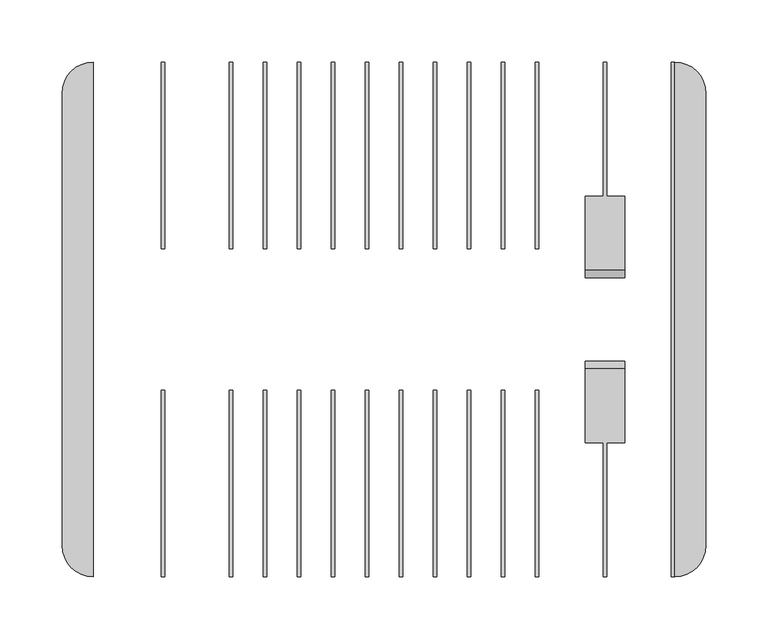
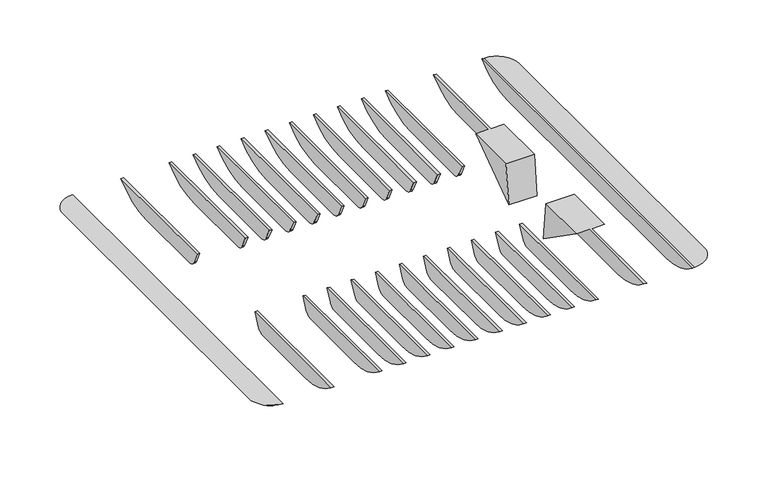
"""IFC4 building model written with IfcOpenShell, lengths in millimetres: light fixture geometry, Zumtobel CRAFT II Plus : CR2PL M17k-840 PC WB LDO WH."""

from ifc_helpers import new_model, si_unit, point, frame, frame_2d, origin, place, context, project, spatial, polyline, circle_curve, ellipse_curve, trimmed, segment, composite_curve, outline, extrude, source, transform, mapped, element, save
from ifc_brep_helpers import plane_surface, cylinder_surface, revolved_surface, advanced_brep


def light_fixture_60486518(model_context):
    return source(origin(), model_context, "Body", "SolidModel", [
        advanced_brep(
        [(593.2941225, -33.6427451, -70.858039), (593.2941225, -39.375, -25.0), (593.2941225, -99.1348121, -25.0), (561.2941225, -33.6427451, -70.858039), (561.2941225, -99.1348121, -25.0), (561.2941225, -39.375, -25.0), (575.7941225, -99.1348121, -25.0), (575.7941225, -207.0, -25.0), (578.7941225, -207.0, -25.0), (578.7941225, -99.1348121, -25.0), (578.7941225, -72.0, -44.0), (575.7941225, -72.0, -44.0), (578.7941225, -157.0, -44.0), (575.7941225, -157.0, -44.0)],
        [
            (0, 1),
            (1, 2),
            (2, 0),
            (3, 4),
            (4, 5),
            (5, 3),
            (0, 3),
            (5, 1),
            (4, 6),
            (6, 7),
            (7, 8),
            (8, 9),
            (9, 2),
            (9, 10),
            (10, 11),
            (11, 6),
            (8, 12, circle_curve(frame((578.7941225, -157.0, 31.2894737), z_axis=(1.0, 0.0, 0.0), x_axis=(0.0, 1.0, 0.0)), 75.2894737)),
            (12, 10),
            (13, 7, circle_curve(frame((575.7941225, -157.0, 31.2894737), z_axis=(-1.0, 0.0, 0.0), x_axis=(0.0, 1.0, 0.0)), 75.2894737)),
            (11, 13),
            (13, 12),
        ],
        [
            plane_surface(frame((593.2941225, -72.0, -44.0), z_axis=(1.0000000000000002, 0.0, 0.0), x_axis=(0.0, 0.8191520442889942, -0.5735764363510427))),
            plane_surface(frame((561.2941225, -72.0, -44.0), z_axis=(-1.0000000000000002, 0.0, 0.0), x_axis=(0.0, -0.8191520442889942, 0.5735764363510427))),
            plane_surface(frame((561.2941225, -39.375, -25.0), z_axis=(0.0, 0.9922778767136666, 0.1240347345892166), x_axis=(1.0, 0.0, 0.0))),
            plane_surface(frame((561.2941225, -99.1348121, -25.0), z_axis=(0.0, 0.0, 1.0), x_axis=(1.0, 0.0, 0.0))),
            plane_surface(frame((561.2941225, -33.6427451, -70.858039), z_axis=(0.0, -0.5735764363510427, -0.8191520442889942), x_axis=(1.0, 0.0, 0.0))),
            plane_surface(frame((578.7941225, -207.0, -25.0), z_axis=(1.0, 0.0, 0.0), x_axis=(0.0, -1.0, 0.0))),
            plane_surface(frame((575.7941225, -207.0, -25.0), z_axis=(-1.0, 0.0, 0.0), x_axis=(0.0, 1.0, 0.0))),
            cylinder_surface(frame((575.7941225, -157.0, 31.2894737), z_axis=(1.0, 0.0, 0.0), x_axis=(0.0, 1.0, 0.0)), 75.2894737),
            plane_surface(frame((578.7941225, -157.0, -44.0), z_axis=(0.0, 0.0, -1.0), x_axis=(-1.0, 0.0, 0.0))),
        ],
        [
            (0, [[1, 2, 3]]),
            (1, [[4, 5, 6]]),
            (2, [[-1, 7, -6, 8]]),
            (3, [[-2, -8, -5, 9, 10, 11, 12, 13]]),
            (4, [[-3, -13, 14, 15, 16, -9, -4, -7]]),
            (5, [[17, 18, -14, -12]]),
            (6, [[19, -10, -16, 20]]),
            (7, [[-17, -11, -19, 21]]),
            (8, [[-21, -20, -15, -18]]),
        ],
    ),
        advanced_brep(
        [(593.2941225, 33.6427451, -70.858039), (593.2941225, 99.1348121, -25.0), (593.2941225, 39.375, -25.0), (561.2941225, 33.6427451, -70.858039), (561.2941225, 39.375, -25.0), (561.2941225, 99.1348121, -25.0), (575.7941225, 99.1348121, -25.0), (575.7941225, 72.0, -44.0), (578.7941225, 72.0, -44.0), (578.7941225, 99.1348121, -25.0), (578.7941225, 207.0, -25.0), (575.7941225, 207.0, -25.0), (578.7941225, 157.0, -44.0), (575.7941225, 157.0, -44.0)],
        [
            (0, 1),
            (1, 2),
            (2, 0),
            (3, 4),
            (4, 5),
            (5, 3),
            (0, 3),
            (5, 6),
            (6, 7),
            (7, 8),
            (8, 9),
            (9, 1),
            (9, 10),
            (10, 11),
            (11, 6),
            (4, 2),
            (12, 10, circle_curve(frame((578.7941225, 157.0, 31.2894737), z_axis=(1.0, 0.0, 0.0), x_axis=(0.0, -1.0, 0.0)), 75.2894737)),
            (8, 12),
            (11, 13, circle_curve(frame((575.7941225, 157.0, 31.2894737), z_axis=(-1.0, 0.0, 0.0), x_axis=(0.0, -1.0, 0.0)), 75.2894737)),
            (13, 7),
            (13, 12),
        ],
        [
            plane_surface(frame((593.2941225, -72.0, -44.0), z_axis=(1.0000000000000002, 0.0, 0.0), x_axis=(0.0, 0.8191520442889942, -0.5735764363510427))),
            plane_surface(frame((561.2941225, -72.0, -44.0), z_axis=(-1.0000000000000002, 0.0, 0.0), x_axis=(0.0, -0.8191520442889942, 0.5735764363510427))),
            plane_surface(frame((561.2941225, 99.1348121, -25.0), z_axis=(0.0, 0.5735764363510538, -0.8191520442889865), x_axis=(1.0, 0.0, 0.0))),
            plane_surface(frame((561.2941225, 39.375, -25.0), z_axis=(0.0, 0.0, 1.0), x_axis=(1.0, 0.0, 0.0))),
            plane_surface(frame((561.2941225, 33.6427451, -70.858039), z_axis=(0.0, -0.9922778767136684, 0.12403473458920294), x_axis=(1.0, 0.0, 0.0))),
            plane_surface(frame((578.7941225, -207.0, -25.0), z_axis=(1.0, 0.0, 0.0), x_axis=(0.0, -1.0, 0.0))),
            plane_surface(frame((575.7941225, -207.0, -25.0), z_axis=(-1.0, 0.0, 0.0), x_axis=(0.0, 1.0, 0.0))),
            plane_surface(frame((578.7941225, 57.0, -44.0), z_axis=(0.0, 0.0, -1.0), x_axis=(-1.0, 0.0, 0.0))),
            cylinder_surface(frame((577.2941225, 157.0, 31.2894737), z_axis=(1.0, 0.0, 0.0), x_axis=(0.0, -1.0, 0.0)), 75.2894737),
        ],
        [
            (0, [[1, 2, 3]]),
            (1, [[4, 5, 6]]),
            (2, [[-1, 7, -6, 8, 9, 10, 11, 12]]),
            (3, [[-2, -12, 13, 14, 15, -8, -5, 16]]),
            (4, [[-3, -16, -4, -7]]),
            (5, [[17, -13, -11, 18]]),
            (6, [[19, 20, -9, -15]]),
            (7, [[21, -18, -10, -20]]),
            (8, [[-17, -21, -19, -14]]),
        ],
    ),
        advanced_brep(
        [(140.5000048, 182.0, -25.0), (140.5000048, -182.0, -25.0), (165.5000048, -207.0, -25.0), (165.5000048, 207.0, -25.0), (165.5000048, 182.0, -39.7281639), (165.5000048, -182.0, -39.7281639)],
        [
            (0, 1),
            (1, 2, circle_curve(frame((165.5000048, -182.0, -25.0), z_axis=(0.0, 0.0, 1.0), x_axis=(-1.0000000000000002, 0.0, 0.0)), 25.0)),
            (2, 3),
            (3, 0, circle_curve(frame((165.5000048, 182.0, -25.0), z_axis=(0.0, 0.0, 1.0), x_axis=(-1.0000000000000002, 0.0, 0.0)), 25.0)),
            (0, 4, circle_curve(frame((190.5000048, 182.0, 31.2894737), z_axis=(0.0, -1.0, 0.0), x_axis=(1.0, 0.0, 0.0)), 75.2894737)),
            (4, 5),
            (5, 1, circle_curve(frame((190.5000048, -182.0, 31.2894737), z_axis=(0.0, 1.0, 0.0), x_axis=(1.0, 0.0, 0.0)), 75.2894737)),
            (4, 3, circle_curve(frame((165.5000048, 157.0, 31.2894737), z_axis=(1.0000000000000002, 0.0, 0.0), x_axis=(0.0, -1.0000000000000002, 0.0)), 75.2894737)),
            (2, 5, circle_curve(frame((165.5000048, -157.0, 31.2894737), z_axis=(1.0000000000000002, 0.0, 0.0), x_axis=(0.0, 1.0000000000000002, 0.0)), 75.2894737)),
        ],
        [
            plane_surface(frame((140.5000048, 182.0, -25.0), z_axis=(0.0, 0.0, 1.0), x_axis=(0.0, -1.0, 0.0))),
            cylinder_surface(frame((190.5000048, -182.0, 31.2894737), z_axis=(0.0, 1.0, 0.0), x_axis=(1.0, 0.0, 0.0)), 75.2894737),
            plane_surface(frame((165.5000048, 182.0, -25.0), z_axis=(1.0, 0.0, 0.0), x_axis=(0.0, -1.0, 0.0))),
            revolved_surface(trimmed(ellipse_curve(frame((190.5000048, 182.0, 31.2894737), z_axis=(0.0, -1.0000000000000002, 0.0), x_axis=(1.0000000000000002, 0.0, 0.0)), 75.2894737, 75.2894737), [point((140.5000048, 182.0, -25.0))], [point((165.5000048, 182.0, -39.7281639))], True, "CARTESIAN"), (165.5000048, 182.0, -39.7281639), (0.0, 0.0, -1.0)),
            revolved_surface(trimmed(ellipse_curve(frame((190.5000048, -182.0, 31.2894737), z_axis=(0.0, 1.0000000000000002, 0.0), x_axis=(1.0000000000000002, 0.0, 0.0)), 75.2894737, 75.2894737), [point((165.5000048, -182.0, -39.7281639))], [point((140.5000048, -182.0, -25.0))], True, "CARTESIAN"), (165.5000048, -182.0, -39.7281639), (0.0, 0.0, 1.0)),
        ],
        [
            (0, [[1, 2, 3, 4]]),
            (1, [[-1, 5, 6, 7]]),
            (2, [[-6, 8, -3, 9]]),
            (3, [[-8, -5, -4]]),
            (4, [[-9, -2, -7]]),
        ],
    ),
        advanced_brep(
        [(658.5000048, -182.0, -25.0), (658.5000048, 182.0, -25.0), (633.5000048, 207.0, -25.0), (633.5000048, -207.0, -25.0), (633.5000048, -182.0, -39.7281639), (633.5000048, 182.0, -39.7281639)],
        [
            (0, 1),
            (1, 2, circle_curve(frame((633.5000048, 182.0, -25.0), z_axis=(0.0, 0.0, 1.0), x_axis=(1.0000000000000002, 0.0, 0.0)), 25.0)),
            (2, 3),
            (3, 0, circle_curve(frame((633.5000048, -182.0, -25.0), z_axis=(0.0, 0.0, 1.0), x_axis=(1.0000000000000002, 0.0, 0.0)), 25.0)),
            (0, 4, circle_curve(frame((608.5000048, -182.0, 31.2894737), z_axis=(0.0, 1.0, 0.0), x_axis=(-1.0, 0.0, 0.0)), 75.2894737)),
            (4, 5),
            (5, 1, circle_curve(frame((608.5000048, 182.0, 31.2894737), z_axis=(0.0, -1.0, 0.0), x_axis=(-1.0, 0.0, 0.0)), 75.2894737)),
            (4, 3, circle_curve(frame((633.5000048, -157.0, 31.2894737), z_axis=(-1.0000000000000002, 0.0, 0.0), x_axis=(0.0, 1.0000000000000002, 0.0)), 75.2894737)),
            (2, 5, circle_curve(frame((633.5000048, 157.0, 31.2894737), z_axis=(-1.0000000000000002, 0.0, 0.0), x_axis=(0.0, -1.0000000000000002, 0.0)), 75.2894737)),
        ],
        [
            plane_surface(frame((633.5000048, 182.0, -25.0), z_axis=(0.0, 0.0, 1.0), x_axis=(0.0, -1.0, 0.0))),
            cylinder_surface(frame((608.5000048, -182.0, 31.2894737), z_axis=(0.0, 1.0, 0.0), x_axis=(-1.0, 0.0, 0.0)), 75.2894737),
            plane_surface(frame((633.5000048, 182.0, -39.7281639), z_axis=(-1.0, 0.0, 0.0), x_axis=(0.0, -1.0, 0.0))),
            revolved_surface(trimmed(ellipse_curve(frame((608.5000048, 182.0, 31.2894737), z_axis=(0.0, -1.0000000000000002, 0.0), x_axis=(-1.0000000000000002, 0.0, 0.0)), 75.2894737, 75.2894737), [point((633.5000048, 182.0, -39.7281639))], [point((658.5000048, 182.0, -25.0))], True, "CARTESIAN"), (633.5000048, 182.0, -39.7281639), (0.0, 0.0, 1.0)),
            revolved_surface(trimmed(ellipse_curve(frame((608.5000048, -182.0, 31.2894737), z_axis=(0.0, 1.0000000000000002, 0.0), x_axis=(-1.0000000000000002, 0.0, 0.0)), 75.2894737, 75.2894737), [point((658.5000048, -182.0, -25.0))], [point((633.5000048, -182.0, -39.7281639))], True, "CARTESIAN"), (633.5000048, -182.0, -39.7281639), (0.0, 0.0, -1.0)),
        ],
        [
            (0, [[1, 2, 3, 4]]),
            (1, [[-1, 5, 6, 7]]),
            (2, [[-6, 8, -3, 9]]),
            (3, [[-9, -2, -7]]),
            (4, [[-8, -5, -4]]),
        ],
    ),
        extrude(outline(composite_curve([segment(trimmed(circle_curve(frame_2d((157.0, 31.2894737)), 75.2894737), [point((207.0, -25.0))], [point((157.0, -44.0))], False, "CARTESIAN"), True, "CONTINUOUS"), segment(polyline([(157.0, -44.0), (-157.0, -44.0)]), True, "CONTINUOUS"), segment(trimmed(circle_curve(frame_2d((-157.0, 31.2894737)), 75.2894737), [point((-157.0, -44.0))], [point((-207.0, -25.0))], False, "CARTESIAN"), True, "CONTINUOUS"), segment(polyline([(-207.0, -25.0), (207.0, -25.0)]), True, "CONTINUOUS")], self_intersect=False)), frame((630.5000048, 0.0, 0.0), z_axis=(1.0, 0.0, 0.0), x_axis=(0.0, 1.0, 0.0)), (0.0, 0.0, 1.0), 3.0),
        extrude(outline(composite_curve([segment(polyline([(-57.0, -25.0), (-63.1674702, -38.2261826)]), True, "CONTINUOUS"), segment(trimmed(circle_curve(frame_2d((-72.2305481, -34.0)), 10.0), [point((-63.1674702, -38.2261826))], [point((-72.2305481, -44.0))], False, "CARTESIAN"), True, "CONTINUOUS"), segment(polyline([(-72.2305481, -44.0), (-157.0, -44.0)]), True, "CONTINUOUS"), segment(trimmed(circle_curve(frame_2d((-157.0, 31.2894737)), 75.2894737), [point((-157.0, -44.0))], [point((-207.0, -25.0))], False, "CARTESIAN"), True, "CONTINUOUS"), segment(polyline([(-207.0, -25.0), (-57.0, -25.0)]), True, "CONTINUOUS")], self_intersect=False)), frame((521.0882401, 0.0, 0.0), z_axis=(1.0, 0.0, 0.0), x_axis=(0.0, 1.0, 0.0)), (0.0, 0.0, 1.0), 3.0),
        extrude(outline(composite_curve([segment(trimmed(circle_curve(frame_2d((72.2305481, -34.0)), 10.0), [point((72.2305481, -44.0))], [point((63.1674702, -38.2261826))], False, "CARTESIAN"), True, "CONTINUOUS"), segment(polyline([(63.1674702, -38.2261826), (57.0, -25.0), (207.0, -25.0)]), True, "CONTINUOUS"), segment(trimmed(circle_curve(frame_2d((157.0, 31.2894737)), 75.2894737), [point((207.0, -25.0))], [point((157.0, -44.0))], False, "CARTESIAN"), True, "CONTINUOUS"), segment(polyline([(157.0, -44.0), (72.2305481, -44.0)]), True, "CONTINUOUS")], self_intersect=False)), frame((521.0882401, 0.0, 0.0), z_axis=(1.0, 0.0, 0.0), x_axis=(0.0, 1.0, 0.0)), (0.0, 0.0, 1.0), 3.0),
        extrude(outline(composite_curve([segment(polyline([(-57.0, -25.0), (-63.1674702, -38.2261826)]), True, "CONTINUOUS"), segment(trimmed(circle_curve(frame_2d((-72.2305481, -34.0)), 10.0), [point((-63.1674702, -38.2261826))], [point((-72.2305481, -44.0))], False, "CARTESIAN"), True, "CONTINUOUS"), segment(polyline([(-72.2305481, -44.0), (-157.0, -44.0)]), True, "CONTINUOUS"), segment(trimmed(circle_curve(frame_2d((-157.0, 31.2894737)), 75.2894737), [point((-157.0, -44.0))], [point((-207.0, -25.0))], False, "CARTESIAN"), True, "CONTINUOUS"), segment(polyline([(-207.0, -25.0), (-57.0, -25.0)]), True, "CONTINUOUS")], self_intersect=False)), frame((493.7352989, 0.0, 0.0), z_axis=(1.0, 0.0, 0.0), x_axis=(0.0, 1.0, 0.0)), (0.0, 0.0, 1.0), 3.0),
        extrude(outline(composite_curve([segment(trimmed(circle_curve(frame_2d((72.2305481, -34.0)), 10.0), [point((72.2305481, -44.0))], [point((63.1674702, -38.2261826))], False, "CARTESIAN"), True, "CONTINUOUS"), segment(polyline([(63.1674702, -38.2261826), (57.0, -25.0), (207.0, -25.0)]), True, "CONTINUOUS"), segment(trimmed(circle_curve(frame_2d((157.0, 31.2894737)), 75.2894737), [point((207.0, -25.0))], [point((157.0, -44.0))], False, "CARTESIAN"), True, "CONTINUOUS"), segment(polyline([(157.0, -44.0), (72.2305481, -44.0)]), True, "CONTINUOUS")], self_intersect=False)), frame((493.7352989, 0.0, 0.0), z_axis=(1.0, 0.0, 0.0), x_axis=(0.0, 1.0, 0.0)), (0.0, 0.0, 1.0), 3.0),
        extrude(outline(composite_curve([segment(polyline([(-57.0, -25.0), (-63.1674702, -38.2261826)]), True, "CONTINUOUS"), segment(trimmed(circle_curve(frame_2d((-72.2305481, -34.0)), 10.0), [point((-63.1674702, -38.2261826))], [point((-72.2305481, -44.0))], False, "CARTESIAN"), True, "CONTINUOUS"), segment(polyline([(-72.2305481, -44.0), (-157.0, -44.0)]), True, "CONTINUOUS"), segment(trimmed(circle_curve(frame_2d((-157.0, 31.2894737)), 75.2894737), [point((-157.0, -44.0))], [point((-207.0, -25.0))], False, "CARTESIAN"), True, "CONTINUOUS"), segment(polyline([(-207.0, -25.0), (-57.0, -25.0)]), True, "CONTINUOUS")], self_intersect=False)), frame((466.3823578, 0.0, 0.0), z_axis=(1.0, 0.0, 0.0), x_axis=(0.0, 1.0, 0.0)), (0.0, 0.0, 1.0), 3.0),
        extrude(outline(composite_curve([segment(trimmed(circle_curve(frame_2d((72.2305481, -34.0)), 10.0), [point((72.2305481, -44.0))], [point((63.1674702, -38.2261826))], False, "CARTESIAN"), True, "CONTINUOUS"), segment(polyline([(63.1674702, -38.2261826), (57.0, -25.0), (207.0, -25.0)]), True, "CONTINUOUS"), segment(trimmed(circle_curve(frame_2d((157.0, 31.2894737)), 75.2894737), [point((207.0, -25.0))], [point((157.0, -44.0))], False, "CARTESIAN"), True, "CONTINUOUS"), segment(polyline([(157.0, -44.0), (72.2305481, -44.0)]), True, "CONTINUOUS")], self_intersect=False)), frame((466.3823578, 0.0, 0.0), z_axis=(1.0, 0.0, 0.0), x_axis=(0.0, 1.0, 0.0)), (0.0, 0.0, 1.0), 3.0),
        extrude(outline(composite_curve([segment(polyline([(-57.0, -25.0), (-63.1674702, -38.2261826)]), True, "CONTINUOUS"), segment(trimmed(circle_curve(frame_2d((-72.2305481, -34.0)), 10.0), [point((-63.1674702, -38.2261826))], [point((-72.2305481, -44.0))], False, "CARTESIAN"), True, "CONTINUOUS"), segment(polyline([(-72.2305481, -44.0), (-157.0, -44.0)]), True, "CONTINUOUS"), segment(trimmed(circle_curve(frame_2d((-157.0, 31.2894737)), 75.2894737), [point((-157.0, -44.0))], [point((-207.0, -25.0))], False, "CARTESIAN"), True, "CONTINUOUS"), segment(polyline([(-207.0, -25.0), (-57.0, -25.0)]), True, "CONTINUOUS")], self_intersect=False)), frame((439.0294166, 0.0, 0.0), z_axis=(1.0, 0.0, 0.0), x_axis=(0.0, 1.0, 0.0)), (0.0, 0.0, 1.0), 3.0),
        extrude(outline(composite_curve([segment(trimmed(circle_curve(frame_2d((72.2305481, -34.0)), 10.0), [point((72.2305481, -44.0))], [point((63.1674702, -38.2261826))], False, "CARTESIAN"), True, "CONTINUOUS"), segment(polyline([(63.1674702, -38.2261826), (57.0, -25.0), (207.0, -25.0)]), True, "CONTINUOUS"), segment(trimmed(circle_curve(frame_2d((157.0, 31.2894737)), 75.2894737), [point((207.0, -25.0))], [point((157.0, -44.0))], False, "CARTESIAN"), True, "CONTINUOUS"), segment(polyline([(157.0, -44.0), (72.2305481, -44.0)]), True, "CONTINUOUS")], self_intersect=False)), frame((439.0294166, 0.0, 0.0), z_axis=(1.0, 0.0, 0.0), x_axis=(0.0, 1.0, 0.0)), (0.0, 0.0, 1.0), 3.0),
        extrude(outline(composite_curve([segment(polyline([(-57.0, -25.0), (-63.1674702, -38.2261826)]), True, "CONTINUOUS"), segment(trimmed(circle_curve(frame_2d((-72.2305481, -34.0)), 10.0), [point((-63.1674702, -38.2261826))], [point((-72.2305481, -44.0))], False, "CARTESIAN"), True, "CONTINUOUS"), segment(polyline([(-72.2305481, -44.0), (-157.0, -44.0)]), True, "CONTINUOUS"), segment(trimmed(circle_curve(frame_2d((-157.0, 31.2894737)), 75.2894737), [point((-157.0, -44.0))], [point((-207.0, -25.0))], False, "CARTESIAN"), True, "CONTINUOUS"), segment(polyline([(-207.0, -25.0), (-57.0, -25.0)]), True, "CONTINUOUS")], self_intersect=False)), frame((411.6764754, 0.0, 0.0), z_axis=(1.0, 0.0, 0.0), x_axis=(0.0, 1.0, 0.0)), (0.0, 0.0, 1.0), 3.0),
        extrude(outline(composite_curve([segment(trimmed(circle_curve(frame_2d((72.2305481, -34.0)), 10.0), [point((72.2305481, -44.0))], [point((63.1674702, -38.2261826))], False, "CARTESIAN"), True, "CONTINUOUS"), segment(polyline([(63.1674702, -38.2261826), (57.0, -25.0), (207.0, -25.0)]), True, "CONTINUOUS"), segment(trimmed(circle_curve(frame_2d((157.0, 31.2894737)), 75.2894737), [point((207.0, -25.0))], [point((157.0, -44.0))], False, "CARTESIAN"), True, "CONTINUOUS"), segment(polyline([(157.0, -44.0), (72.2305481, -44.0)]), True, "CONTINUOUS")], self_intersect=False)), frame((411.6764754, 0.0, 0.0), z_axis=(1.0, 0.0, 0.0), x_axis=(0.0, 1.0, 0.0)), (0.0, 0.0, 1.0), 3.0),
        extrude(outline(composite_curve([segment(polyline([(-57.0, -25.0), (-63.1674702, -38.2261826)]), True, "CONTINUOUS"), segment(trimmed(circle_curve(frame_2d((-72.2305481, -34.0)), 10.0), [point((-63.1674702, -38.2261826))], [point((-72.2305481, -44.0))], False, "CARTESIAN"), True, "CONTINUOUS"), segment(polyline([(-72.2305481, -44.0), (-157.0, -44.0)]), True, "CONTINUOUS"), segment(trimmed(circle_curve(frame_2d((-157.0, 31.2894737)), 75.2894737), [point((-157.0, -44.0))], [point((-207.0, -25.0))], False, "CARTESIAN"), True, "CONTINUOUS"), segment(polyline([(-207.0, -25.0), (-57.0, -25.0)]), True, "CONTINUOUS")], self_intersect=False)), frame((384.3235342, 0.0, 0.0), z_axis=(1.0, 0.0, 0.0), x_axis=(0.0, 1.0, 0.0)), (0.0, 0.0, 1.0), 3.0),
        extrude(outline(composite_curve([segment(trimmed(circle_curve(frame_2d((72.2305481, -34.0)), 10.0), [point((72.2305481, -44.0))], [point((63.1674702, -38.2261826))], False, "CARTESIAN"), True, "CONTINUOUS"), segment(polyline([(63.1674702, -38.2261826), (57.0, -25.0), (207.0, -25.0)]), True, "CONTINUOUS"), segment(trimmed(circle_curve(frame_2d((157.0, 31.2894737)), 75.2894737), [point((207.0, -25.0))], [point((157.0, -44.0))], False, "CARTESIAN"), True, "CONTINUOUS"), segment(polyline([(157.0, -44.0), (72.2305481, -44.0)]), True, "CONTINUOUS")], self_intersect=False)), frame((384.3235342, 0.0, 0.0), z_axis=(1.0, 0.0, 0.0), x_axis=(0.0, 1.0, 0.0)), (0.0, 0.0, 1.0), 3.0),
        extrude(outline(composite_curve([segment(polyline([(-57.0, -25.0), (-63.1674702, -38.2261826)]), True, "CONTINUOUS"), segment(trimmed(circle_curve(frame_2d((-72.2305481, -34.0)), 10.0), [point((-63.1674702, -38.2261826))], [point((-72.2305481, -44.0))], False, "CARTESIAN"), True, "CONTINUOUS"), segment(polyline([(-72.2305481, -44.0), (-157.0, -44.0)]), True, "CONTINUOUS"), segment(trimmed(circle_curve(frame_2d((-157.0, 31.2894737)), 75.2894737), [point((-157.0, -44.0))], [point((-207.0, -25.0))], False, "CARTESIAN"), True, "CONTINUOUS"), segment(polyline([(-207.0, -25.0), (-57.0, -25.0)]), True, "CONTINUOUS")], self_intersect=False)), frame((356.9705931, 0.0, 0.0), z_axis=(1.0, 0.0, 0.0), x_axis=(0.0, 1.0, 0.0)), (0.0, 0.0, 1.0), 3.0),
        extrude(outline(composite_curve([segment(trimmed(circle_curve(frame_2d((72.2305481, -34.0)), 10.0), [point((72.2305481, -44.0))], [point((63.1674702, -38.2261826))], False, "CARTESIAN"), True, "CONTINUOUS"), segment(polyline([(63.1674702, -38.2261826), (57.0, -25.0), (207.0, -25.0)]), True, "CONTINUOUS"), segment(trimmed(circle_curve(frame_2d((157.0, 31.2894737)), 75.2894737), [point((207.0, -25.0))], [point((157.0, -44.0))], False, "CARTESIAN"), True, "CONTINUOUS"), segment(polyline([(157.0, -44.0), (72.2305481, -44.0)]), True, "CONTINUOUS")], self_intersect=False)), frame((356.9705931, 0.0, 0.0), z_axis=(1.0, 0.0, 0.0), x_axis=(0.0, 1.0, 0.0)), (0.0, 0.0, 1.0), 3.0),
        extrude(outline(composite_curve([segment(polyline([(-57.0, -25.0), (-63.1674702, -38.2261826)]), True, "CONTINUOUS"), segment(trimmed(circle_curve(frame_2d((-72.2305481, -34.0)), 10.0), [point((-63.1674702, -38.2261826))], [point((-72.2305481, -44.0))], False, "CARTESIAN"), True, "CONTINUOUS"), segment(polyline([(-72.2305481, -44.0), (-157.0, -44.0)]), True, "CONTINUOUS"), segment(trimmed(circle_curve(frame_2d((-157.0, 31.2894737)), 75.2894737), [point((-157.0, -44.0))], [point((-207.0, -25.0))], False, "CARTESIAN"), True, "CONTINUOUS"), segment(polyline([(-207.0, -25.0), (-57.0, -25.0)]), True, "CONTINUOUS")], self_intersect=False)), frame((329.6176519, 0.0, 0.0), z_axis=(1.0, 0.0, 0.0), x_axis=(0.0, 1.0, 0.0)), (0.0, 0.0, 1.0), 3.0),
        extrude(outline(composite_curve([segment(trimmed(circle_curve(frame_2d((72.2305481, -34.0)), 10.0), [point((72.2305481, -44.0))], [point((63.1674702, -38.2261826))], False, "CARTESIAN"), True, "CONTINUOUS"), segment(polyline([(63.1674702, -38.2261826), (57.0, -25.0), (207.0, -25.0)]), True, "CONTINUOUS"), segment(trimmed(circle_curve(frame_2d((157.0, 31.2894737)), 75.2894737), [point((207.0, -25.0))], [point((157.0, -44.0))], False, "CARTESIAN"), True, "CONTINUOUS"), segment(polyline([(157.0, -44.0), (72.2305481, -44.0)]), True, "CONTINUOUS")], self_intersect=False)), frame((329.6176519, 0.0, 0.0), z_axis=(1.0, 0.0, 0.0), x_axis=(0.0, 1.0, 0.0)), (0.0, 0.0, 1.0), 3.0),
        extrude(outline(composite_curve([segment(polyline([(-57.0, -25.0), (-63.1674702, -38.2261826)]), True, "CONTINUOUS"), segment(trimmed(circle_curve(frame_2d((-72.2305481, -34.0)), 10.0), [point((-63.1674702, -38.2261826))], [point((-72.2305481, -44.0))], False, "CARTESIAN"), True, "CONTINUOUS"), segment(polyline([(-72.2305481, -44.0), (-157.0, -44.0)]), True, "CONTINUOUS"), segment(trimmed(circle_curve(frame_2d((-157.0, 31.2894737)), 75.2894737), [point((-157.0, -44.0))], [point((-207.0, -25.0))], False, "CARTESIAN"), True, "CONTINUOUS"), segment(polyline([(-207.0, -25.0), (-57.0, -25.0)]), True, "CONTINUOUS")], self_intersect=False)), frame((302.2647107, 0.0, 0.0), z_axis=(1.0, 0.0, 0.0), x_axis=(0.0, 1.0, 0.0)), (0.0, 0.0, 1.0), 3.0),
        extrude(outline(composite_curve([segment(trimmed(circle_curve(frame_2d((72.2305481, -34.0)), 10.0), [point((72.2305481, -44.0))], [point((63.1674702, -38.2261826))], False, "CARTESIAN"), True, "CONTINUOUS"), segment(polyline([(63.1674702, -38.2261826), (57.0, -25.0), (207.0, -25.0)]), True, "CONTINUOUS"), segment(trimmed(circle_curve(frame_2d((157.0, 31.2894737)), 75.2894737), [point((207.0, -25.0))], [point((157.0, -44.0))], False, "CARTESIAN"), True, "CONTINUOUS"), segment(polyline([(157.0, -44.0), (72.2305481, -44.0)]), True, "CONTINUOUS")], self_intersect=False)), frame((302.2647107, 0.0, 0.0), z_axis=(1.0, 0.0, 0.0), x_axis=(0.0, 1.0, 0.0)), (0.0, 0.0, 1.0), 3.0),
        extrude(outline(composite_curve([segment(polyline([(-57.0, -25.0), (-63.1674702, -38.2261826)]), True, "CONTINUOUS"), segment(trimmed(circle_curve(frame_2d((-72.2305481, -34.0)), 10.0), [point((-63.1674702, -38.2261826))], [point((-72.2305481, -44.0))], False, "CARTESIAN"), True, "CONTINUOUS"), segment(polyline([(-72.2305481, -44.0), (-157.0, -44.0)]), True, "CONTINUOUS"), segment(trimmed(circle_curve(frame_2d((-157.0, 31.2894737)), 75.2894737), [point((-157.0, -44.0))], [point((-207.0, -25.0))], False, "CARTESIAN"), True, "CONTINUOUS"), segment(polyline([(-207.0, -25.0), (-57.0, -25.0)]), True, "CONTINUOUS")], self_intersect=False)), frame((274.9117695, 0.0, 0.0), z_axis=(1.0, 0.0, 0.0), x_axis=(0.0, 1.0, 0.0)), (0.0, 0.0, 1.0), 3.0),
        extrude(outline(composite_curve([segment(trimmed(circle_curve(frame_2d((72.2305481, -34.0)), 10.0), [point((72.2305481, -44.0))], [point((63.1674702, -38.2261826))], False, "CARTESIAN"), True, "CONTINUOUS"), segment(polyline([(63.1674702, -38.2261826), (57.0, -25.0), (207.0, -25.0)]), True, "CONTINUOUS"), segment(trimmed(circle_curve(frame_2d((157.0, 31.2894737)), 75.2894737), [point((207.0, -25.0))], [point((157.0, -44.0))], False, "CARTESIAN"), True, "CONTINUOUS"), segment(polyline([(157.0, -44.0), (72.2305481, -44.0)]), True, "CONTINUOUS")], self_intersect=False)), frame((274.9117695, 0.0, 0.0), z_axis=(1.0, 0.0, 0.0), x_axis=(0.0, 1.0, 0.0)), (0.0, 0.0, 1.0), 3.0),
        extrude(outline(composite_curve([segment(polyline([(-57.0, -25.0), (-63.1674702, -38.2261826)]), True, "CONTINUOUS"), segment(trimmed(circle_curve(frame_2d((-72.2305481, -34.0)), 10.0), [point((-63.1674702, -38.2261826))], [point((-72.2305481, -44.0))], False, "CARTESIAN"), True, "CONTINUOUS"), segment(polyline([(-72.2305481, -44.0), (-157.0, -44.0)]), True, "CONTINUOUS"), segment(trimmed(circle_curve(frame_2d((-157.0, 31.2894737)), 75.2894737), [point((-157.0, -44.0))], [point((-207.0, -25.0))], False, "CARTESIAN"), True, "CONTINUOUS"), segment(polyline([(-207.0, -25.0), (-57.0, -25.0)]), True, "CONTINUOUS")], self_intersect=False)), frame((220.2058872, 0.0, 0.0), z_axis=(1.0, 0.0, 0.0), x_axis=(0.0, 1.0, 0.0)), (0.0, 0.0, 1.0), 3.0),
        extrude(outline(composite_curve([segment(trimmed(circle_curve(frame_2d((72.2305481, -34.0)), 10.0), [point((72.2305481, -44.0))], [point((63.1674702, -38.2261826))], False, "CARTESIAN"), True, "CONTINUOUS"), segment(polyline([(63.1674702, -38.2261826), (57.0, -25.0), (207.0, -25.0)]), True, "CONTINUOUS"), segment(trimmed(circle_curve(frame_2d((157.0, 31.2894737)), 75.2894737), [point((207.0, -25.0))], [point((157.0, -44.0))], False, "CARTESIAN"), True, "CONTINUOUS"), segment(polyline([(157.0, -44.0), (72.2305481, -44.0)]), True, "CONTINUOUS")], self_intersect=False)), frame((220.2058872, 0.0, 0.0), z_axis=(1.0, 0.0, 0.0), x_axis=(0.0, 1.0, 0.0)), (0.0, 0.0, 1.0), 3.0),
    ])


if __name__ == "__main__":
    model = new_model("IFC4")
    model_context = context("Model", 3, world=origin())
    ifc_project = project(units=[si_unit("LENGTHUNIT", "METRE", prefix="MILLI")], contexts=[model_context])
    site = spatial("IfcSite", under=ifc_project)
    building = spatial("IfcBuilding", under=site)
    placement = place(None, origin())
    light_fixture_shape = light_fixture_60486518(model_context)
    element("IfcLightFixture", 1, ObjectType="Zumtobel CRAFT II Plus : CR2PL M17k-840 PC WB LDO WH", at=placement, inside=building, context=model_context, shape_type="MappedRepresentation", body=[
        mapped(light_fixture_shape, transform((0.0, 0.0, 0.0), x_axis=(1.0, 0.0, 0.0), y_axis=(0.0, 1.0, 0.0), z_axis=(0.0, 0.0, 1.0))),
    ])
    save(model, "model.ifc")
